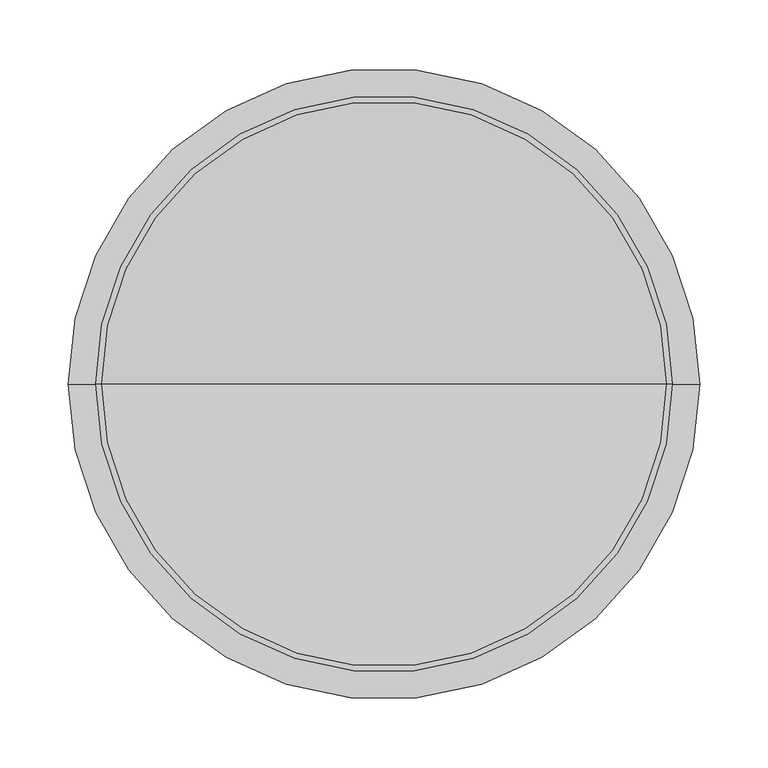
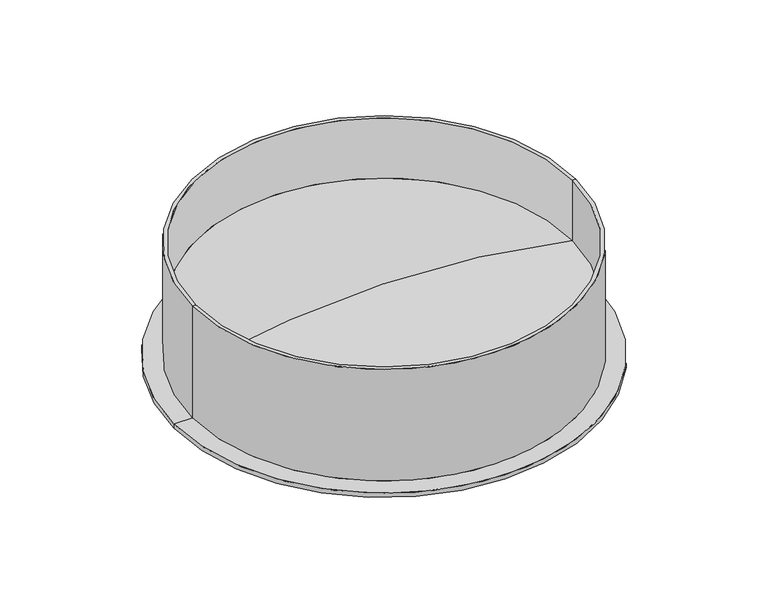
"""IFC4 building model written with IfcOpenShell, lengths in millimetres: valve geometry, Pipelife - Studnia PRO - Dno studni 425 : Dno studni."""

from ifc_helpers import new_model, si_unit, point, frame, origin, origin_with_axes, place, context, project, spatial, polyline, circle_curve, ellipse_curve, trimmed, source, transform, mapped, element, save
from ifc_brep_helpers import plane_surface, cylinder_surface, revolved_surface, advanced_brep


def valve_868bf9e1(model_context):
    return source(origin(), model_context, "Body", "AdvancedBrep", [
        advanced_brep(
        [(-231.0, 0.0, 5.0), (231.0, 0.0, 5.0), (231.0, 0.0, 0.0), (-231.0, 0.0, 0.0), (-211.0, 0.0, 5.0), (211.0, 0.0, 5.0), (-211.0, 0.0, 135.0), (211.0, 0.0, 135.0), (-207.0, 0.0, 135.0), (207.0, 0.0, 135.0), (0.0, 0.0, 0.0), (207.0, 0.0, 65.0), (-207.0, 0.0, 65.0), (0.0, 0.0, 87.0)],
        [
            (0, 1, circle_curve(frame((0.0, 0.0, 5.0), z_axis=(0.0, 0.0, -1.0), x_axis=(1.0, 0.0, 0.0)), 231.0)),
            (1, 2),
            (2, 3, circle_curve(origin_with_axes(), 231.0)),
            (3, 0),
            (1, 0, circle_curve(frame((0.0, 0.0, 5.0), z_axis=(0.0, 0.0, -1.0), x_axis=(1.0, 0.0, 0.0)), 231.0)),
            (3, 2, circle_curve(origin_with_axes(), 231.0)),
            (0, 4),
            (4, 5, circle_curve(frame((0.0, 0.0, 5.0), z_axis=(0.0, 0.0, -1.0), x_axis=(1.0, 0.0, 0.0)), 211.0)),
            (5, 1),
            (5, 4, circle_curve(frame((0.0, 0.0, 5.0), z_axis=(0.0, 0.0, -1.0), x_axis=(1.0, 0.0, 0.0)), 211.0)),
            (4, 6),
            (6, 7, circle_curve(frame((0.0, 0.0, 135.0), z_axis=(0.0, 0.0, -1.0), x_axis=(1.0, 0.0, 0.0)), 211.0)),
            (7, 5),
            (7, 6, circle_curve(frame((0.0, 0.0, 135.0), z_axis=(0.0, 0.0, -1.0), x_axis=(1.0, 0.0, 0.0)), 211.0)),
            (6, 8),
            (8, 9, circle_curve(frame((0.0, 0.0, 135.0), z_axis=(0.0, 0.0, -1.0), x_axis=(-1.0, 0.0, 0.0)), 207.0)),
            (9, 7),
            (9, 8, circle_curve(frame((0.0, 0.0, 135.0), z_axis=(0.0, 0.0, -1.0), x_axis=(-1.0, 0.0, 0.0)), 207.0)),
            (2, 10),
            (10, 3),
            (11, 9),
            (8, 12),
            (12, 11, circle_curve(frame((0.0, 0.0, 65.0), z_axis=(0.0, 0.0, -1.0), x_axis=(-1.0, 0.0, 0.0)), 207.0)),
            (11, 12, circle_curve(frame((0.0, 0.0, 65.0), z_axis=(0.0, 0.0, -1.0), x_axis=(-1.0, 0.0, 0.0)), 207.0)),
            (12, 13, circle_curve(frame((0.0, 0.0, -897.8409091), z_axis=(0.0, 1.0, 0.0), x_axis=(1.0, 0.0, 0.0)), 984.8409091)),
            (13, 11, circle_curve(frame((0.0, 0.0, -897.8409091), z_axis=(0.0, 1.0, 0.0), x_axis=(-1.0, 0.0, 0.0)), 984.8409091)),
        ],
        [
            cylinder_surface(frame((0.0, 0.0, 210.0), z_axis=(0.0, 0.0, 1.0), x_axis=(1.0, 0.0, 0.0)), 231.0),
            plane_surface(frame((0.0, 0.0, 5.0), z_axis=(0.0, 0.0, 1.0), x_axis=(1.0, 0.0, 0.0))),
            cylinder_surface(frame((0.0, 0.0, 210.0), z_axis=(0.0, 0.0, 1.0), x_axis=(1.0, 0.0, 0.0)), 211.0),
            plane_surface(frame((0.0, 0.0, 135.0), z_axis=(0.0, 0.0, 1.0), x_axis=(1.0, 0.0, 0.0))),
            plane_surface(frame((0.0, 0.0, 0.0), z_axis=(0.0, 0.0, -1.0), x_axis=(1.0, 0.0, 0.0))),
            revolved_surface(polyline([(-207.0, 0.0, 65.0), (-207.0, 0.0, 135.0)]), (0.0, 0.0, 240.0), (0.0, 0.0, -1.0)),
            revolved_surface(trimmed(ellipse_curve(frame((0.0, 0.0, -897.8409091), z_axis=(0.0, -1.0, 0.0), x_axis=(1.0, 0.0, 0.0)), 984.8409091, 984.8409091), [point((0.0, 0.0, 87.0))], [point((-207.0, 0.0, 65.0))], True, "CARTESIAN"), (0.0, 0.0, 240.0), (0.0, 0.0, -1.0)),
        ],
        [
            (0, [[1, 2, 3, 4]]),
            (0, [[-2, 5, -4, 6]]),
            (1, [[-1, 7, 8, 9]]),
            (1, [[-5, -9, 10, -7]]),
            (2, [[-8, 11, 12, 13]]),
            (2, [[-10, -13, 14, -11]]),
            (3, [[-12, 15, 16, 17]]),
            (3, [[-14, -17, 18, -15]]),
            (4, [[-3, 19, 20]]),
            (4, [[-6, -20, -19]]),
            (5, [[21, -16, 22, 23]]),
            (5, [[-21, 24, -22, -18]]),
            (6, [[-23, 25, 26]]),
            (6, [[-24, -26, -25]]),
        ],
    ),
    ])


if __name__ == "__main__":
    model = new_model("IFC4")
    model_context = context("Model", 3, world=origin())
    ifc_project = project(units=[si_unit("LENGTHUNIT", "METRE", prefix="MILLI")], contexts=[model_context])
    site = spatial("IfcSite", under=ifc_project)
    building = spatial("IfcBuilding", under=site)
    placement = place(None, origin())
    valve_shape = valve_868bf9e1(model_context)
    element("IfcValve", 1, ObjectType="Pipelife - Studnia PRO - Dno studni 425 : Dno studni", at=placement, inside=building, context=model_context, shape_type="MappedRepresentation", body=[
        mapped(valve_shape, transform((0.0, 0.0, 0.0), x_axis=(1.0, 0.0, 0.0), y_axis=(0.0, 1.0, 0.0), z_axis=(0.0, 0.0, 1.0))),
    ])
    save(model, "model.ifc")
